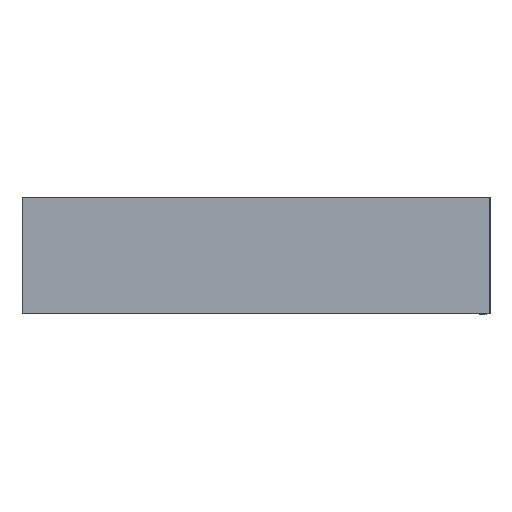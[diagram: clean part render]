
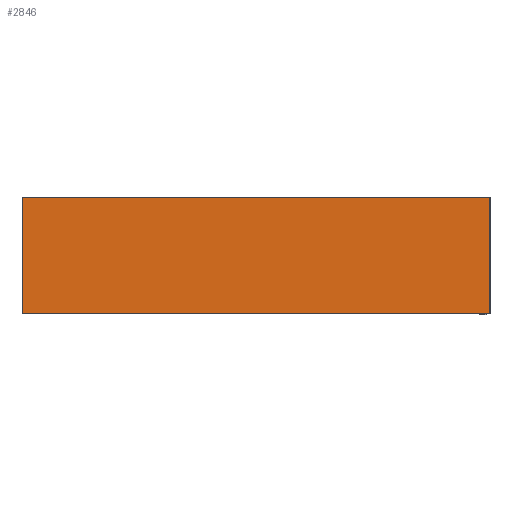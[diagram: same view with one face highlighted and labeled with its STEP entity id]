
A CAD part, top view. The second image highlights one B-rep face of the part: STEP entity #2846.
In plain terms, the highlighted planar face has unit normal (0, 0, 1).
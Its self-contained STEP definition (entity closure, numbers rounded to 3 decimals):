
#468=FACE_OUTER_BOUND('',#644,.T.);
#644=EDGE_LOOP('',(#2105,#2106,#2107,#2108));
#849=LINE('',#4351,#1091);
#868=LINE('',#4397,#1110);
#889=LINE('',#4447,#1131);
#901=LINE('',#4474,#1143);
#1091=VECTOR('',#3442,10.);
#1110=VECTOR('',#3489,10.);
#1131=VECTOR('',#3540,10.);
#1143=VECTOR('',#3576,10.);
#1332=VERTEX_POINT('',#4348);
#1333=VERTEX_POINT('',#4350);
#1346=VERTEX_POINT('',#4396);
#1360=VERTEX_POINT('',#4446);
#1582=EDGE_CURVE('',#1333,#1332,#849,.T.);
#1605=EDGE_CURVE('',#1346,#1333,#868,.T.);
#1630=EDGE_CURVE('',#1360,#1346,#889,.T.);
#1645=EDGE_CURVE('',#1360,#1332,#901,.T.);
#2105=ORIENTED_EDGE('',*,*,#1582,.T.);
#2106=ORIENTED_EDGE('',*,*,#1645,.F.);
#2107=ORIENTED_EDGE('',*,*,#1630,.T.);
#2108=ORIENTED_EDGE('',*,*,#1605,.T.);
#2729=PLANE('',#3126);
#2846=ADVANCED_FACE('',(#468),#2729,.T.);
#3126=AXIS2_PLACEMENT_3D('',#4476,#3579,#3580);
#3442=DIRECTION('',(0.,1.,0.));
#3489=DIRECTION('',(1.,0.,0.));
#3540=DIRECTION('',(0.,-1.,0.));
#3576=DIRECTION('',(1.,0.,0.));
#3579=DIRECTION('center_axis',(0.,0.,1.));
#3580=DIRECTION('ref_axis',(1.,0.,0.));
#4348=CARTESIAN_POINT('',(66.9,1050.,0.8));
#4350=CARTESIAN_POINT('',(66.9,-750.4,0.8));
#4351=CARTESIAN_POINT('',(66.9,-300.7,0.8));
#4396=CARTESIAN_POINT('',(-379.9,-750.4,0.8));
#4397=CARTESIAN_POINT('',(-268.2,-750.4,0.8));
#4446=CARTESIAN_POINT('',(-379.9,1050.,0.8));
#4447=CARTESIAN_POINT('',(-379.9,599.5,0.8));
#4474=CARTESIAN_POINT('',(68.5,1050.,0.8));
#4476=CARTESIAN_POINT('Origin',(-156.5,149.,0.8));
